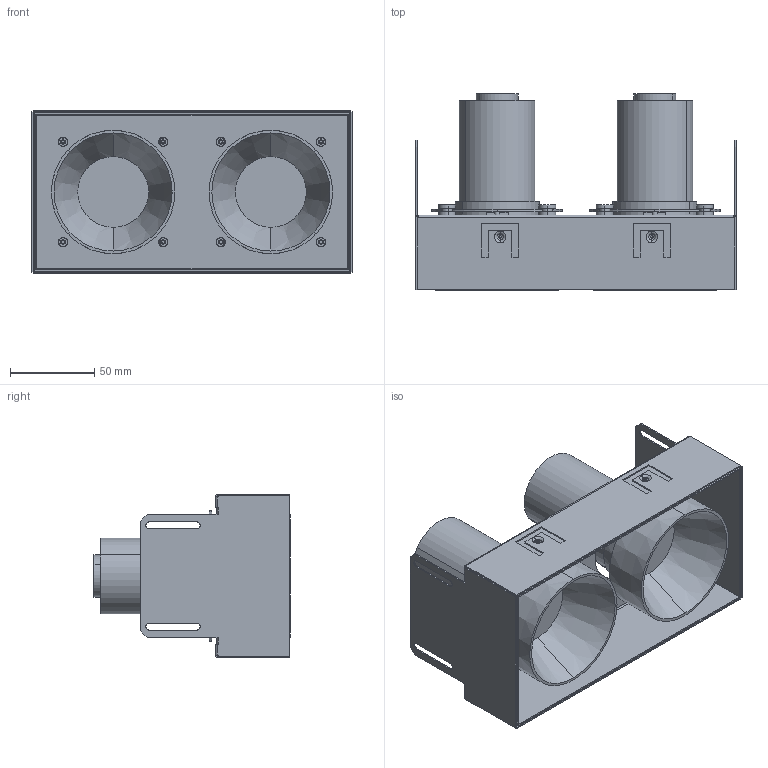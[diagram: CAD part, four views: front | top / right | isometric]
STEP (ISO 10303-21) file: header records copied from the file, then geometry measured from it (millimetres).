
FILE_DESCRIPTION (( 'STEP AP214' ), '1' );
FILE_NAME ('Ringo Box 1.2Frameless.STEP', '2018-04-24T14:53:11', ( 'tecnica2' ), ( 'Microsoft' ), 'SwSTEP 2.0', 'SolidWorks 2016', '' );
FILE_SCHEMA (( 'AUTOMOTIVE_DESIGN' ));
Length unit declared in the file: millimetre
Products named in the file (10): Arandela Giro_reducida; prisionero M3x4; aro giratorio_lamp50(para pieza giro); Pieza interior basculanates ringO_R1 sin teton; MODULOS VS-BIM_10W; Caja_Box 2D50 frameless; Ringo Box 1.2Frameless; Sobre caja_Box 2D50; Remache 4.0-Generico_*7; M3 -Avellanedo Torx_6
Assembly tree (30 placements, depth 2):
  Ringo Box 1.2Frameless
    Caja_Box 2D50 frameless
    MODULOS VS-BIM_10W  x2
    Pieza interior basculanates ringO_R1 sin teton  x2
    aro giratorio_lamp50(para pieza giro)  x2
    prisionero M3x4  x2
    Arandela Giro_reducida  x8
    M3 -Avellanedo Torx_6  x8
    Remache 4.0-Generico_*7  x4
    Sobre caja_Box 2D50
Bounding box: 190 x 116.3 x 97 mm (x, y, z)
Volume: 393902.7 mm3; surface area: 245492 mm2
Topology: 30 solids, 30 shells, 982 faces, 2382 edges, 1446 vertices
Faces by surface type: plane 374, cylinder 344, torus 112, cone 72, sphere 64, bspline 16
Entity records: 15035 total; most frequent: CARTESIAN_POINT 2963, DIRECTION 2519, ORIENTED_EDGE 2324, EDGE_CURVE 1162, AXIS2_PLACEMENT_3D 948, VERTEX_POINT 726, LINE 623, VECTOR 623
